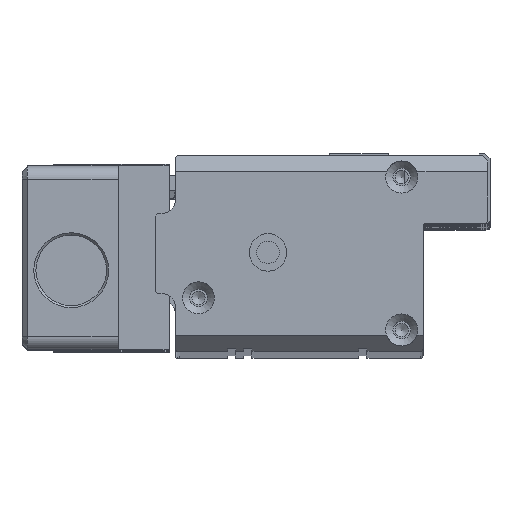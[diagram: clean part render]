
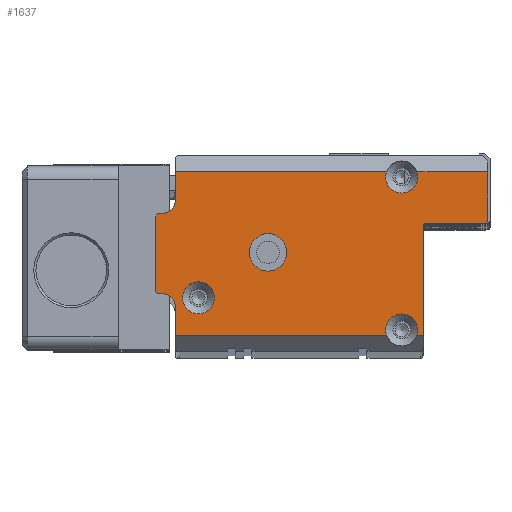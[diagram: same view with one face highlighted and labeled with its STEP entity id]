
A CAD part, top view. The second image highlights one B-rep face of the part: STEP entity #1637.
In plain terms, the highlighted planar face has unit normal (0, 0, 1).
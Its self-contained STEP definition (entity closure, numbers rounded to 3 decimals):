
#1637=ADVANCED_FACE('',(#4659,#4660,#4661),#2055,.T.);
#2055=PLANE('',#13470);
#3172=LINE('',#21110,#4348);
#3173=LINE('',#21112,#4349);
#3174=LINE('',#21116,#4350);
#3175=LINE('',#21120,#4351);
#3176=LINE('',#21122,#4352);
#3177=LINE('',#21126,#4353);
#3178=LINE('',#21128,#4354);
#3179=LINE('',#21132,#4355);
#3180=LINE('',#21136,#4356);
#3181=LINE('',#21140,#4357);
#3182=LINE('',#21144,#4358);
#3183=LINE('',#21146,#4359);
#4348=VECTOR('',#16779,1.);
#4349=VECTOR('',#16780,1.);
#4350=VECTOR('',#16783,1.);
#4351=VECTOR('',#16786,1.);
#4352=VECTOR('',#16787,1.);
#4353=VECTOR('',#16790,1.);
#4354=VECTOR('',#16791,1.);
#4355=VECTOR('',#16794,1.);
#4356=VECTOR('',#16797,1.);
#4357=VECTOR('',#16800,1.);
#4358=VECTOR('',#16803,1.);
#4359=VECTOR('',#16804,1.);
#4659=FACE_BOUND('',#5412,.T.);
#4660=FACE_BOUND('',#5413,.T.);
#4661=FACE_BOUND('',#5414,.T.);
#5412=EDGE_LOOP('',(#8750));
#5413=EDGE_LOOP('',(#8751,#8752,#8753,#8754,#8755,#8756,#8757,#8758,#8759,
#8760,#8761,#8762,#8763,#8764,#8765,#8766,#8767,#8768,#8769,#8770));
#5414=EDGE_LOOP('',(#8771));
#8750=ORIENTED_EDGE('',*,*,#11833,.T.);
#8751=ORIENTED_EDGE('',*,*,#11834,.T.);
#8752=ORIENTED_EDGE('',*,*,#11835,.T.);
#8753=ORIENTED_EDGE('',*,*,#11836,.T.);
#8754=ORIENTED_EDGE('',*,*,#11837,.T.);
#8755=ORIENTED_EDGE('',*,*,#11838,.T.);
#8756=ORIENTED_EDGE('',*,*,#11839,.T.);
#8757=ORIENTED_EDGE('',*,*,#11840,.T.);
#8758=ORIENTED_EDGE('',*,*,#11841,.T.);
#8759=ORIENTED_EDGE('',*,*,#11842,.T.);
#8760=ORIENTED_EDGE('',*,*,#11843,.T.);
#8761=ORIENTED_EDGE('',*,*,#11844,.T.);
#8762=ORIENTED_EDGE('',*,*,#11845,.T.);
#8763=ORIENTED_EDGE('',*,*,#11846,.T.);
#8764=ORIENTED_EDGE('',*,*,#11847,.T.);
#8765=ORIENTED_EDGE('',*,*,#11848,.T.);
#8766=ORIENTED_EDGE('',*,*,#11849,.T.);
#8767=ORIENTED_EDGE('',*,*,#11850,.T.);
#8768=ORIENTED_EDGE('',*,*,#11851,.T.);
#8769=ORIENTED_EDGE('',*,*,#11852,.T.);
#8770=ORIENTED_EDGE('',*,*,#11853,.T.);
#8771=ORIENTED_EDGE('',*,*,#11854,.T.);
#10111=VERTEX_POINT('',#21106);
#10112=VERTEX_POINT('',#21108);
#10113=VERTEX_POINT('',#21109);
#10114=VERTEX_POINT('',#21111);
#10115=VERTEX_POINT('',#21113);
#10116=VERTEX_POINT('',#21115);
#10117=VERTEX_POINT('',#21117);
#10118=VERTEX_POINT('',#21119);
#10119=VERTEX_POINT('',#21121);
#10120=VERTEX_POINT('',#21123);
#10121=VERTEX_POINT('',#21125);
#10122=VERTEX_POINT('',#21127);
#10123=VERTEX_POINT('',#21129);
#10124=VERTEX_POINT('',#21131);
#10125=VERTEX_POINT('',#21133);
#10126=VERTEX_POINT('',#21135);
#10127=VERTEX_POINT('',#21137);
#10128=VERTEX_POINT('',#21139);
#10129=VERTEX_POINT('',#21141);
#10130=VERTEX_POINT('',#21143);
#10131=VERTEX_POINT('',#21145);
#10132=VERTEX_POINT('',#21148);
#11833=EDGE_CURVE('',#10111,#10111,#12359,.T.);
#11834=EDGE_CURVE('',#10112,#10113,#12360,.T.);
#11835=EDGE_CURVE('',#10113,#10114,#3172,.T.);
#11836=EDGE_CURVE('',#10114,#10115,#3173,.T.);
#11837=EDGE_CURVE('',#10115,#10116,#12361,.T.);
#11838=EDGE_CURVE('',#10116,#10117,#3174,.T.);
#11839=EDGE_CURVE('',#10117,#10118,#12362,.T.);
#11840=EDGE_CURVE('',#10118,#10119,#3175,.T.);
#11841=EDGE_CURVE('',#10119,#10120,#3176,.T.);
#11842=EDGE_CURVE('',#10120,#10121,#12363,.T.);
#11843=EDGE_CURVE('',#10121,#10122,#3177,.T.);
#11844=EDGE_CURVE('',#10122,#10123,#3178,.T.);
#11845=EDGE_CURVE('',#10123,#10124,#12364,.T.);
#11846=EDGE_CURVE('',#10124,#10125,#3179,.T.);
#11847=EDGE_CURVE('',#10125,#10126,#12365,.T.);
#11848=EDGE_CURVE('',#10126,#10127,#3180,.T.);
#11849=EDGE_CURVE('',#10127,#10128,#12366,.T.);
#11850=EDGE_CURVE('',#10128,#10129,#3181,.T.);
#11851=EDGE_CURVE('',#10129,#10130,#12367,.T.);
#11852=EDGE_CURVE('',#10130,#10131,#3182,.T.);
#11853=EDGE_CURVE('',#10131,#10112,#3183,.T.);
#11854=EDGE_CURVE('',#10132,#10132,#12368,.T.);
#12359=CIRCLE('',#13460,3.);
#12360=CIRCLE('',#13461,3.);
#12361=CIRCLE('',#13462,0.5);
#12362=CIRCLE('',#13463,0.5);
#12363=CIRCLE('',#13464,3.);
#12364=CIRCLE('',#13465,2.5);
#12365=CIRCLE('',#13466,0.5);
#12366=CIRCLE('',#13467,0.5);
#12367=CIRCLE('',#13468,2.5);
#12368=CIRCLE('',#13469,3.5);
#13460=AXIS2_PLACEMENT_3D('',#21105,#16775,#16776);
#13461=AXIS2_PLACEMENT_3D('',#21107,#16777,#16778);
#13462=AXIS2_PLACEMENT_3D('',#21114,#16781,#16782);
#13463=AXIS2_PLACEMENT_3D('',#21118,#16784,#16785);
#13464=AXIS2_PLACEMENT_3D('',#21124,#16788,#16789);
#13465=AXIS2_PLACEMENT_3D('',#21130,#16792,#16793);
#13466=AXIS2_PLACEMENT_3D('',#21134,#16795,#16796);
#13467=AXIS2_PLACEMENT_3D('',#21138,#16798,#16799);
#13468=AXIS2_PLACEMENT_3D('',#21142,#16801,#16802);
#13469=AXIS2_PLACEMENT_3D('',#21147,#16805,#16806);
#13470=AXIS2_PLACEMENT_3D('',#21149,#16807,#16808);
#16775=DIRECTION('',(0.,0.,-1.));
#16776=DIRECTION('',(-1.,0.,0.));
#16777=DIRECTION('',(0.,0.,-1.));
#16778=DIRECTION('',(-1.,0.,0.));
#16779=DIRECTION('',(1.,0.,0.));
#16780=DIRECTION('',(0.,1.,0.));
#16781=DIRECTION('',(0.,0.,-1.));
#16782=DIRECTION('',(1.,0.,0.));
#16783=DIRECTION('',(1.,0.,0.));
#16784=DIRECTION('',(0.,0.,1.));
#16785=DIRECTION('',(1.,0.,0.));
#16786=DIRECTION('',(0.,1.,0.));
#16787=DIRECTION('',(-1.,0.,0.));
#16788=DIRECTION('',(0.,0.,-1.));
#16789=DIRECTION('',(-1.,0.,0.));
#16790=DIRECTION('',(-1.,0.,0.));
#16791=DIRECTION('',(0.,-1.,0.));
#16792=DIRECTION('',(0.,0.,-1.));
#16793=DIRECTION('',(1.,0.,0.));
#16794=DIRECTION('',(-1.,0.,0.));
#16795=DIRECTION('',(0.,0.,1.));
#16796=DIRECTION('',(1.,0.,0.));
#16797=DIRECTION('',(0.,-1.,0.));
#16798=DIRECTION('',(0.,0.,1.));
#16799=DIRECTION('',(1.,0.,0.));
#16800=DIRECTION('',(1.,0.,0.));
#16801=DIRECTION('',(0.,0.,-1.));
#16802=DIRECTION('',(1.,0.,0.));
#16803=DIRECTION('',(0.,-1.,0.));
#16804=DIRECTION('',(1.,0.,0.));
#16805=DIRECTION('',(0.,0.,-1.));
#16806=DIRECTION('',(-1.,0.,0.));
#16807=DIRECTION('',(0.,0.,1.));
#16808=DIRECTION('',(-1.,0.,0.));
#21105=CARTESIAN_POINT('',(8.,-26.6,8.));
#21106=CARTESIAN_POINT('',(5.,-26.6,8.));
#21107=CARTESIAN_POINT('',(46.,-32.6,8.));
#21108=CARTESIAN_POINT('',(43.172,-33.6,8.));
#21109=CARTESIAN_POINT('',(48.828,-33.6,8.));
#21110=CARTESIAN_POINT('',(50.,-33.6,8.));
#21111=CARTESIAN_POINT('',(50.,-33.6,8.));
#21112=CARTESIAN_POINT('',(50.,-36.6,8.));
#21113=CARTESIAN_POINT('',(50.,-13.1,8.));
#21114=CARTESIAN_POINT('',(50.5,-13.1,8.));
#21115=CARTESIAN_POINT('',(50.5,-12.6,8.));
#21116=CARTESIAN_POINT('',(50.,-12.6,8.));
#21117=CARTESIAN_POINT('',(61.6,-12.6,8.));
#21118=CARTESIAN_POINT('',(61.6,-12.1,8.));
#21119=CARTESIAN_POINT('',(62.1,-12.1,8.));
#21120=CARTESIAN_POINT('',(62.1,-12.6,8.));
#21121=CARTESIAN_POINT('',(62.1,-3.,8.));
#21122=CARTESIAN_POINT('',(3.7,-3.,8.));
#21123=CARTESIAN_POINT('',(48.828,-3.,8.));
#21124=CARTESIAN_POINT('',(46.,-4.,8.));
#21125=CARTESIAN_POINT('',(43.172,-3.,8.));
#21126=CARTESIAN_POINT('',(3.7,-3.,8.));
#21127=CARTESIAN_POINT('',(3.7,-3.,8.));
#21128=CARTESIAN_POINT('',(3.7,0.,8.));
#21129=CARTESIAN_POINT('',(3.7,-8.3,8.));
#21130=CARTESIAN_POINT('',(1.2,-8.3,8.));
#21131=CARTESIAN_POINT('',(1.2,-10.8,8.));
#21132=CARTESIAN_POINT('',(3.7,-10.8,8.));
#21133=CARTESIAN_POINT('',(0.5,-10.8,8.));
#21134=CARTESIAN_POINT('',(0.5,-11.3,8.));
#21135=CARTESIAN_POINT('',(0.,-11.3,8.));
#21136=CARTESIAN_POINT('',(0.,-10.8,8.));
#21137=CARTESIAN_POINT('',(0.,-25.3,8.));
#21138=CARTESIAN_POINT('',(0.5,-25.3,8.));
#21139=CARTESIAN_POINT('',(0.5,-25.8,8.));
#21140=CARTESIAN_POINT('',(0.,-25.8,8.));
#21141=CARTESIAN_POINT('',(1.2,-25.8,8.));
#21142=CARTESIAN_POINT('',(1.2,-28.3,8.));
#21143=CARTESIAN_POINT('',(3.7,-28.3,8.));
#21144=CARTESIAN_POINT('',(3.7,-25.8,8.));
#21145=CARTESIAN_POINT('',(3.7,-33.6,8.));
#21146=CARTESIAN_POINT('',(50.,-33.6,8.));
#21147=CARTESIAN_POINT('',(21.,-18.1,8.));
#21148=CARTESIAN_POINT('',(17.5,-18.1,8.));
#21149=CARTESIAN_POINT('',(0.,0.,8.));
